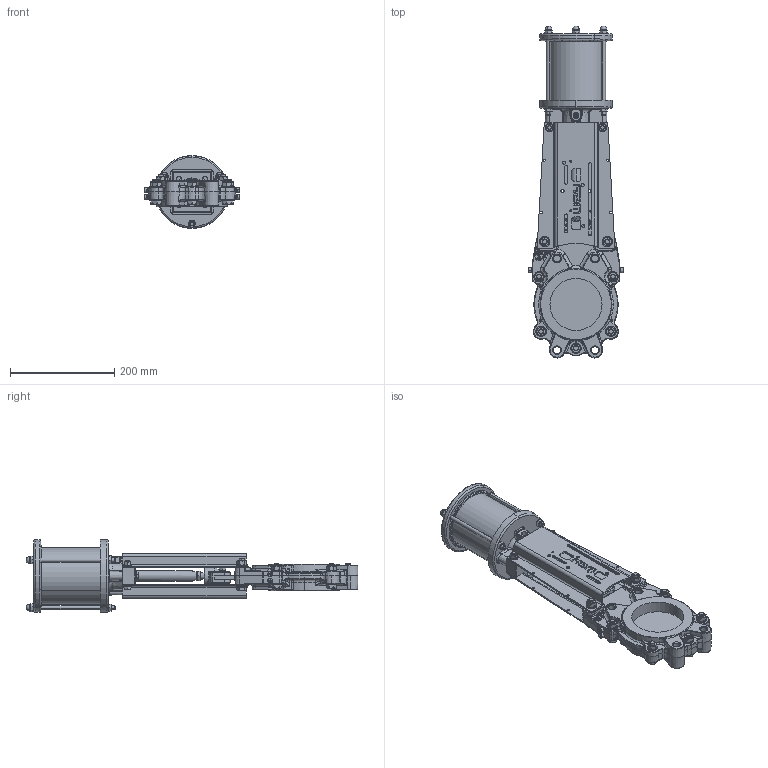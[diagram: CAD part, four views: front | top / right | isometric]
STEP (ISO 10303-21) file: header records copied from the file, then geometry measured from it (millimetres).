
FILE_DESCRIPTION (( 'STEP AP214' ), '1' );
FILE_NAME ('VSC DN 0100.STEP', '2015-09-23T11:06:30', ( 'admin' ), ( 'Hewlett-Packard Company' ), 'SwSTEP 2.0', 'SolidWorks 2013', '' );
FILE_SCHEMA (( 'AUTOMOTIVE_DESIGN' ));
Length unit declared in the file: millimetre
Products named in the file (1): VSC DN 0100
Bounding box: 182 x 637.46 x 140 mm (x, y, z)
Volume: 2217418.6 mm3; surface area: 587713.7 mm2
Topology: 64 solids, 72 shells, 2858 faces, 6900 edges, 4148 vertices
Faces by surface type: plane 1002, cylinder 818, cone 558, bspline 272, torus 196, sphere 12
Entity records: 127845 total; most frequent: CARTESIAN_POINT 30903, ORIENTED_EDGE 13608, DIRECTION 13452, EDGE_CURVE 6804, AXIS2_PLACEMENT_3D 5338, VERTEX_POINT 4142, EDGE_LOOP 3156, UNCERTAINTY_MEASURE_WITH_UNIT 2924
